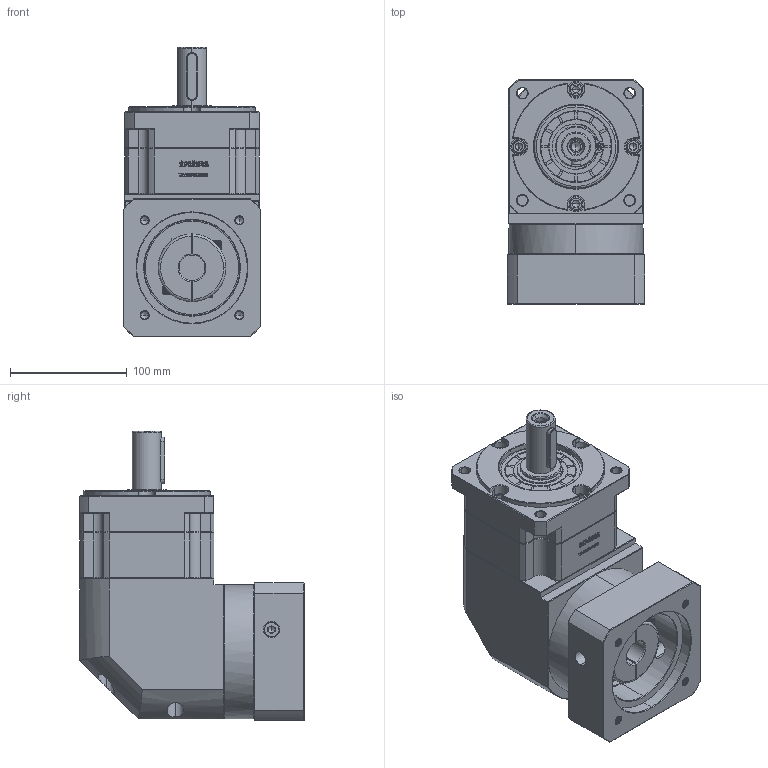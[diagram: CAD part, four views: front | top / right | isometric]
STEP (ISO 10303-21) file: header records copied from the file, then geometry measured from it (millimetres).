
FILE_DESCRIPTION (( 'STEP AP214' ), '1' );
FILE_NAME ('ZBR115A-D25-L1-22-95-115-M8.step', '2023-03-03T04:55:17', ( '' ), ( 'Microsoft' ), 'SwSTEP 2.0', 'SolidWorks 2016', '' );
FILE_SCHEMA (( 'AUTOMOTIVE_DESIGN' ));
Length unit declared in the file: millimetre
Products named in the file (1): ZBR115A-D25-L1-22-95-115-M8
Bounding box: 118 x 192.4 x 248 mm (x, y, z)
Volume: 2959331.1 mm3; surface area: 246550.8 mm2
Topology: 6 solids, 6 shells, 2982 faces, 7913 edges, 5077 vertices
Faces by surface type: plane 1559, bspline 607, cylinder 439, cone 369, torus 8
Entity records: 161771 total; most frequent: CARTESIAN_POINT 59803, ORIENTED_EDGE 15766, DIRECTION 11936, EDGE_CURVE 7883, VECTOR 5306, LINE 5306, VERTEX_POINT 5077, AXIS2_PLACEMENT_3D 3315
